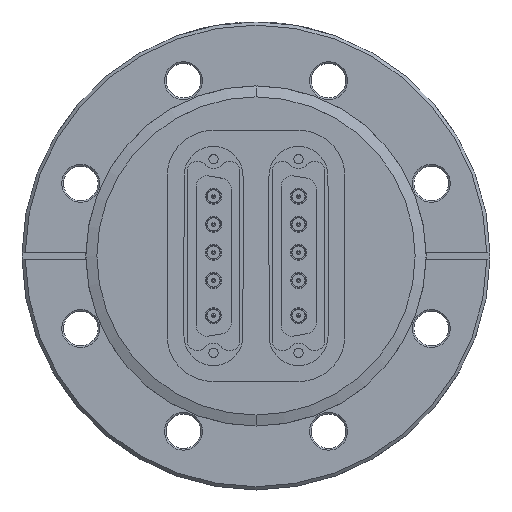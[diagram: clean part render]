
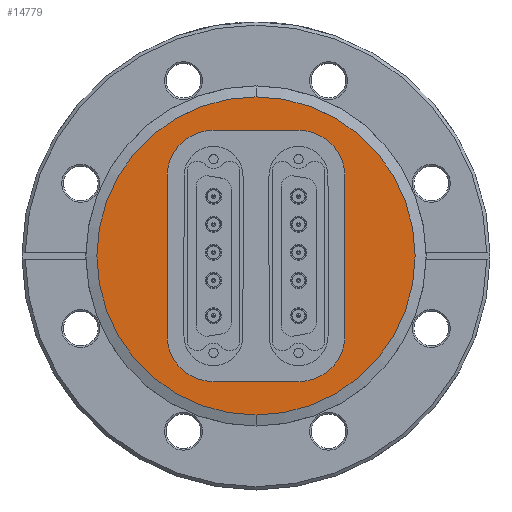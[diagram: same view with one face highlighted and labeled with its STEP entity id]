
A CAD part, top view. The second image highlights one B-rep face of the part: STEP entity #14779.
In plain terms, the highlighted planar face has unit normal (0, 0, 1).
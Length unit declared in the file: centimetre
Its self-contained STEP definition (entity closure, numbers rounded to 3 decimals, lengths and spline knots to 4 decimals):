
#11985 = CARTESIAN_POINT ( 'NONE',  ( 0., 0., -0.1295 ) ) ;
#11986 = DIRECTION ( 'NONE',  ( 0., 0., 1. ) ) ;
#11987 = DIRECTION ( 'NONE',  ( -1., 0., 0. ) ) ;
#13025 = CARTESIAN_POINT ( 'NONE',  ( 0., 0., -0.1295 ) ) ;
#13026 = DIRECTION ( 'NONE',  ( 0., 0., 1. ) ) ;
#13027 = DIRECTION ( 'NONE',  ( -1., 0., 0. ) ) ;
#13290 = ORIENTED_EDGE ( 'NONE', *, *, #37885, .T. ) ;
#13291 = ORIENTED_EDGE ( 'NONE', *, *, #37880, .T. ) ;
#13292 = ORIENTED_EDGE ( 'NONE', *, *, #37878, .T. ) ;
#13293 = ORIENTED_EDGE ( 'NONE', *, *, #37876, .T. ) ;
#13294 = ORIENTED_EDGE ( 'NONE', *, *, #37874, .T. ) ;
#13295 = ORIENTED_EDGE ( 'NONE', *, *, #37871, .T. ) ;
#13296 = ORIENTED_EDGE ( 'NONE', *, *, #37888, .T. ) ;
#13297 = ORIENTED_EDGE ( 'NONE', *, *, #37887, .T. ) ;
#13298 = ORIENTED_EDGE ( 'NONE', *, *, #37378, .T. ) ;
#13299 = ORIENTED_EDGE ( 'NONE', *, *, #37632, .T. ) ;
#14779 = ADVANCED_FACE ( 'NONE', ( #44196, #44199 ), #19897, .T. ) ;
#19891 = CARTESIAN_POINT ( 'NONE',  ( -3.8608, 0., -0.1295 ) ) ;
#19897 = PLANE ( 'NONE',  #43804 ) ;
#19899 = DIRECTION ( 'NONE',  ( 0., 0., 1. ) ) ;
#19900 = DIRECTION ( 'NONE',  ( 1., 0., 0. ) ) ;
#22711 = CIRCLE ( 'NONE', #42104, 3.8608 ) ;
#23053 = CIRCLE ( 'NONE', #42240, 1.1176 ) ;
#24186 = CARTESIAN_POINT ( 'NONE',  ( -2.159, 0., -0.1295 ) ) ;
#24188 = CARTESIAN_POINT ( 'NONE',  ( -1.0414, -1.9304, -0.1295 ) ) ;
#24189 = DIRECTION ( 'NONE',  ( 0., 0., -1. ) ) ;
#24190 = DIRECTION ( 'NONE',  ( -1., 0., 0. ) ) ;
#24194 = DIRECTION ( 'NONE',  ( 0., 1., 0. ) ) ;
#24198 = CARTESIAN_POINT ( 'NONE',  ( -3.8608, 3.048, -0.1295 ) ) ;
#24199 = CARTESIAN_POINT ( 'NONE',  ( -1.0414, 1.9304, -0.1295 ) ) ;
#24200 = DIRECTION ( 'NONE',  ( 0., 0., -1. ) ) ;
#24201 = DIRECTION ( 'NONE',  ( -1., 0., 0. ) ) ;
#24203 = DIRECTION ( 'NONE',  ( 1., 0., 0. ) ) ;
#24207 = CARTESIAN_POINT ( 'NONE',  ( 2.159, 0., -0.1295 ) ) ;
#24208 = CARTESIAN_POINT ( 'NONE',  ( 1.0414, 1.9304, -0.1295 ) ) ;
#24209 = DIRECTION ( 'NONE',  ( 0., 0., -1. ) ) ;
#24210 = DIRECTION ( 'NONE',  ( -1., 0., 0. ) ) ;
#24211 = DIRECTION ( 'NONE',  ( -1., 0., 0. ) ) ;
#24212 = DIRECTION ( 'NONE',  ( 0., -1., 0. ) ) ;
#24214 = CARTESIAN_POINT ( 'NONE',  ( -3.8608, -3.048, -0.1295 ) ) ;
#24217 = CARTESIAN_POINT ( 'NONE',  ( 1.0414, -1.9304, -0.1295 ) ) ;
#24218 = DIRECTION ( 'NONE',  ( 0., 0., -1. ) ) ;
#24219 = DIRECTION ( 'NONE',  ( -1., 0., 0. ) ) ;
#24674 = LINE ( 'NONE', #24186, #24676 ) ;
#24676 = VECTOR ( 'NONE', #24194, 100. ) ;
#24678 = LINE ( 'NONE', #24198, #24693 ) ;
#24685 = CIRCLE ( 'NONE', #42241, 1.1176 ) ;
#24687 = CIRCLE ( 'NONE', #42242, 1.1176 ) ;
#24693 = VECTOR ( 'NONE', #24203, 100. ) ;
#24695 = LINE ( 'NONE', #24207, #24707 ) ;
#24701 = CIRCLE ( 'NONE', #42243, 1.1176 ) ;
#24707 = VECTOR ( 'NONE', #24212, 100. ) ;
#24713 = LINE ( 'NONE', #24214, #24718 ) ;
#24718 = VECTOR ( 'NONE', #24211, 100. ) ;
#32125 = CARTESIAN_POINT ( 'NONE',  ( -2.159, -1.9304, -0.1295 ) ) ;
#32132 = CARTESIAN_POINT ( 'NONE',  ( -1.0414, -3.048, -0.1295 ) ) ;
#32133 = CARTESIAN_POINT ( 'NONE',  ( -1.0414, 3.048, -0.1295 ) ) ;
#32140 = CARTESIAN_POINT ( 'NONE',  ( -2.159, 1.9304, -0.1295 ) ) ;
#32143 = CARTESIAN_POINT ( 'NONE',  ( 1.0414, 3.048, -0.1295 ) ) ;
#32144 = CARTESIAN_POINT ( 'NONE',  ( 2.159, 1.9304, -0.1295 ) ) ;
#32145 = CARTESIAN_POINT ( 'NONE',  ( 2.159, -1.9304, -0.1295 ) ) ;
#32146 = CARTESIAN_POINT ( 'NONE',  ( 1.0414, -3.048, -0.1295 ) ) ;
#32810 = CARTESIAN_POINT ( 'NONE',  ( 3.8608, 0., -0.1295 ) ) ;
#32813 = CARTESIAN_POINT ( 'NONE',  ( -3.8608, 0., -0.1295 ) ) ;
#37378 = EDGE_CURVE ( 'NONE', #48709, #48712, #44392, .T. ) ;
#37632 = EDGE_CURVE ( 'NONE', #48712, #48709, #22711, .T. ) ;
#37871 = EDGE_CURVE ( 'NONE', #47315, #47308, #23053, .T. ) ;
#37874 = EDGE_CURVE ( 'NONE', #47308, #47323, #24674, .T. ) ;
#37876 = EDGE_CURVE ( 'NONE', #47323, #47316, #24685, .T. ) ;
#37878 = EDGE_CURVE ( 'NONE', #47316, #47326, #24678, .T. ) ;
#37880 = EDGE_CURVE ( 'NONE', #47326, #47327, #24687, .T. ) ;
#37885 = EDGE_CURVE ( 'NONE', #47327, #47328, #24695, .T. ) ;
#37887 = EDGE_CURVE ( 'NONE', #47328, #47329, #24701, .T. ) ;
#37888 = EDGE_CURVE ( 'NONE', #47329, #47315, #24713, .T. ) ;
#38740 = EDGE_LOOP ( 'NONE', ( #13297, #13296, #13295, #13294, #13293, #13292, #13291, #13290 ) ) ;
#38741 = EDGE_LOOP ( 'NONE', ( #13299, #13298 ) ) ;
#42015 = AXIS2_PLACEMENT_3D ( 'NONE', #11985, #11986, #11987 ) ;
#42104 = AXIS2_PLACEMENT_3D ( 'NONE', #13025, #13026, #13027 ) ;
#42240 = AXIS2_PLACEMENT_3D ( 'NONE', #24188, #24189, #24190 ) ;
#42241 = AXIS2_PLACEMENT_3D ( 'NONE', #24199, #24200, #24201 ) ;
#42242 = AXIS2_PLACEMENT_3D ( 'NONE', #24208, #24209, #24210 ) ;
#42243 = AXIS2_PLACEMENT_3D ( 'NONE', #24217, #24218, #24219 ) ;
#43804 = AXIS2_PLACEMENT_3D ( 'NONE', #19891, #19899, #19900 ) ;
#44196 = FACE_OUTER_BOUND ( 'NONE', #38741, .T. ) ;
#44199 = FACE_BOUND ( 'NONE', #38740, .T. ) ;
#44392 = CIRCLE ( 'NONE', #42015, 3.8608 ) ;
#47308 = VERTEX_POINT ( 'NONE', #32125 ) ;
#47315 = VERTEX_POINT ( 'NONE', #32132 ) ;
#47316 = VERTEX_POINT ( 'NONE', #32133 ) ;
#47323 = VERTEX_POINT ( 'NONE', #32140 ) ;
#47326 = VERTEX_POINT ( 'NONE', #32143 ) ;
#47327 = VERTEX_POINT ( 'NONE', #32144 ) ;
#47328 = VERTEX_POINT ( 'NONE', #32145 ) ;
#47329 = VERTEX_POINT ( 'NONE', #32146 ) ;
#48709 = VERTEX_POINT ( 'NONE', #32810 ) ;
#48712 = VERTEX_POINT ( 'NONE', #32813 ) ;
